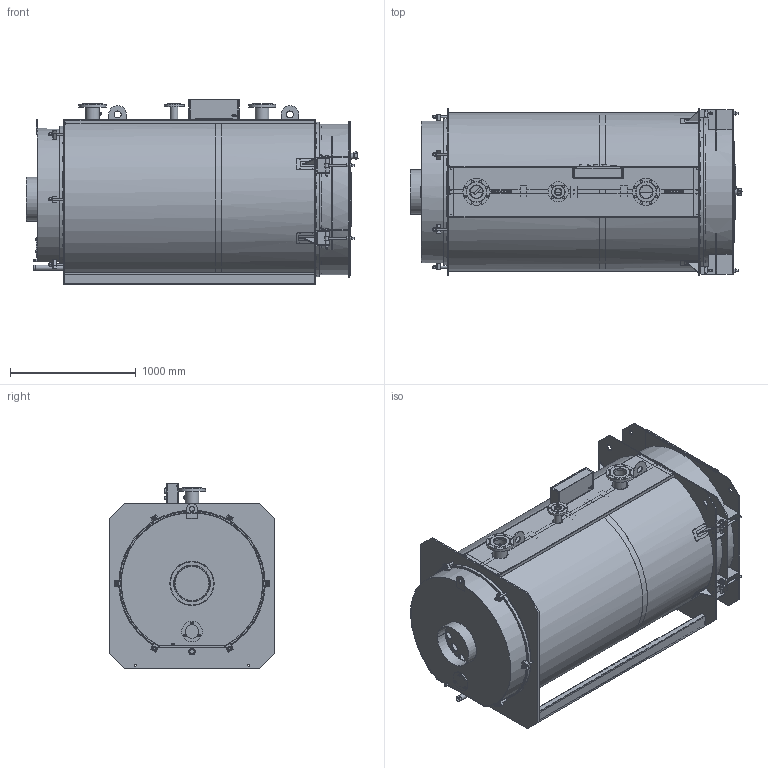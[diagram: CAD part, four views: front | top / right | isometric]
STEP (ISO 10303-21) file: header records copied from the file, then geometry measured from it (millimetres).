
FILE_DESCRIPTION(('STEP AP242'), '1');
FILE_NAME('TITAN Prom 4 (900 êÂò)', '', ('UNSPECIFIED'), ('UNSPECIFIED'), 'ASCON STEP Converter 1.6', 'ASCON Math Kernel', '');
FILE_SCHEMA(('AP242_MANAGED_MODEL_BASED_3D_ENGINEERING_MIM_LF { 1 0 10303 442 1 1 4 }'));
Length unit declared in the file: millimetre
Bounding box: 2640.04 x 1320 x 1478.16 mm (x, y, z)
Volume: 249050554 mm3; surface area: 38225614.2 mm2
Topology: 53 solids, 53 shells, 3229 faces, 7925 edges, 5041 vertices
Faces by surface type: plane 1952, cylinder 864, cone 274, bspline 104, torus 20, extrusion 9, sphere 6
Full cylindrical faces by diameter (mm): 2 x4, 2.8 x27, 3 x1, 3.2 x4, 3.5 x8, 3.6 x4, 4 x12, 4.1 x2, 4.5 x12, 4.8 x1, 5 x17, 6 x5, 7 x2, 7.6 x1, 8 x3, 9 x2, 9.25 x4, 9.728 x1, 10 x6, 10.5 x1, 11 x1, 12 x10, 13 x7, 13.835 x10, 14 x4, 14.5 x1, 15 x3, 15.7 x1, 16 x38, 17 x14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
Entity records: 163152 total; most frequent: CARTESIAN_POINT 62623, DIRECTION 14820, ORIENTED_EDGE 14388, EDGE_CURVE 7194, AXIS2_PLACEMENT_3D 5316, VERTEX_POINT 5037, EDGE_LOOP 4763, VECTOR 4188
